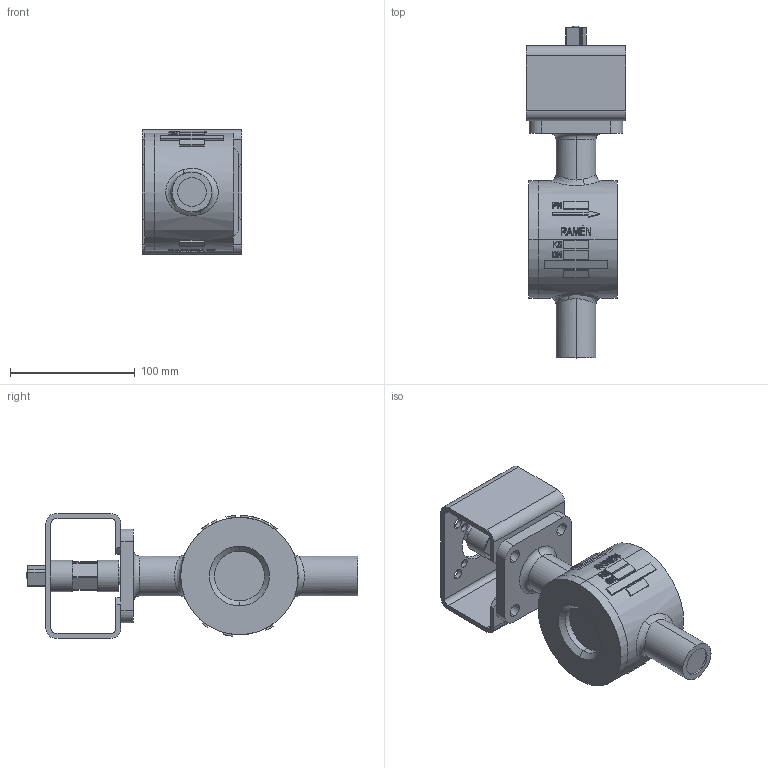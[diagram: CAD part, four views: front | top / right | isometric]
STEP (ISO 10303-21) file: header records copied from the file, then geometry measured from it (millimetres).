
FILE_DESCRIPTION (( 'STEP AP214' ), '1' );
FILE_NAME ('3-310003 w 4-20145 w 4-20159.STEP', '2015-12-16T13:24:37', ( '' ), ( '' ), 'SwSTEP 2.0', 'SolidWorks 2016', '' );
FILE_SCHEMA (( 'AUTOMOTIVE_DESIGN' ));
Length unit declared in the file: millimetre
Products named in the file (1): 3-310003 w 4-20145 w 4-20159
Bounding box: 80 x 266 x 100 mm (x, y, z)
Volume: 708603.2 mm3; surface area: 112270.6 mm2
Topology: 3 solids, 3 shells, 672 faces, 1804 edges, 1187 vertices
Faces by surface type: plane 429, bspline 106, cylinder 96, cone 21, torus 18, sphere 2
Entity records: 26336 total; most frequent: CARTESIAN_POINT 10211, ORIENTED_EDGE 3606, DIRECTION 2917, EDGE_CURVE 1803, VERTEX_POINT 1187, VECTOR 1093, LINE 1093, AXIS2_PLACEMENT_3D 912
